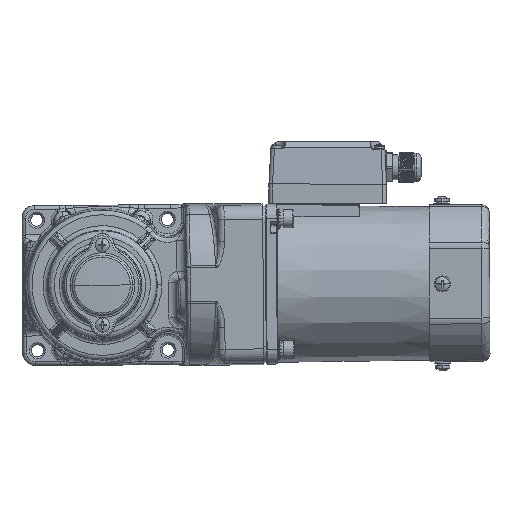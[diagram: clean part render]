
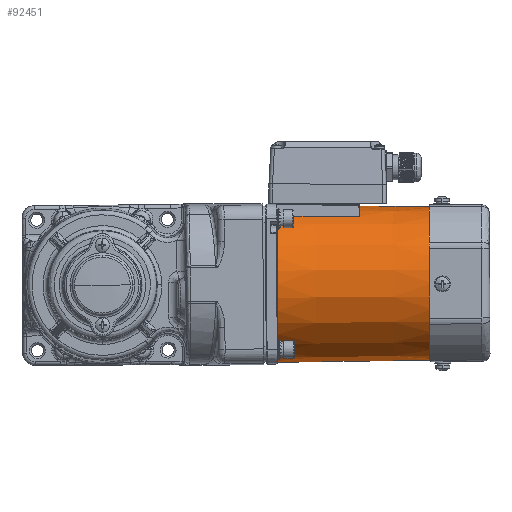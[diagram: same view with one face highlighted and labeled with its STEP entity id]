
A CAD part, left-side view. The second image highlights one B-rep face of the part: STEP entity #92451.
In plain terms, the highlighted conical face has half-angle 0.5 degrees and reference radius 44 mm.
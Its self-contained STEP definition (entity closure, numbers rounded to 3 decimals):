
#690 = CARTESIAN_POINT ( 'NONE',  ( 41.159, -23.171, 154.593 ) ) ;
#1656 = ORIENTED_EDGE ( 'NONE', *, *, #15136, .F. ) ;
#6277 = DIRECTION ( 'NONE',  ( 1., 0., 0. ) ) ;
#8604 = VERTEX_POINT ( 'NONE', #71361 ) ;
#9328 = CARTESIAN_POINT ( 'NONE',  ( 41.348, -23.657, 201. ) ) ;
#9583 = CARTESIAN_POINT ( 'NONE',  ( 41.132, -23.221, 154.663 ) ) ;
#10664 = VERTEX_POINT ( 'NONE', #15161 ) ;
#11332 = CARTESIAN_POINT ( 'NONE',  ( 41.147, -23.193, 154.619 ) ) ;
#11919 = CARTESIAN_POINT ( 'NONE',  ( 41.23, -23.046, 154.512 ) ) ;
#13790 = CARTESIAN_POINT ( 'NONE',  ( 46.483, -1.657, 114. ) ) ;
#15136 = EDGE_CURVE ( 'NONE', #100451, #10664, #54859, .T. ) ;
#15161 = CARTESIAN_POINT ( 'NONE',  ( -40.757, -1.657, 201. ) ) ;
#15562 = EDGE_CURVE ( 'NONE', #55623, #22641, #80423, .T. ) ;
#18254 = CARTESIAN_POINT ( 'NONE',  ( 41.27, -23.522, 185.599 ) ) ;
#19706 = AXIS2_PLACEMENT_3D ( 'NONE', #82987, #74052, #74660 ) ;
#20336 = EDGE_CURVE ( 'NONE', #38006, #8604, #40725, .T. ) ;
#21583 = AXIS2_PLACEMENT_3D ( 'NONE', #62217, #53308, #89545 ) ;
#22641 = VERTEX_POINT ( 'NONE', #63105 ) ;
#23475 = VERTEX_POINT ( 'NONE', #63993 ) ;
#27161 = CARTESIAN_POINT ( 'NONE',  ( 41.114, -23.254, 154.797 ) ) ;
#28643 = EDGE_CURVE ( 'NONE', #23475, #10664, #99091, .T. ) ;
#29215 = CIRCLE ( 'NONE', #19706, 43.241 ) ;
#29762 = CARTESIAN_POINT ( 'NONE',  ( 41.166, -23.159, 154.581 ) ) ;
#32483 = DIRECTION ( 'NONE',  ( 1., 0., 0. ) ) ;
#38006 = VERTEX_POINT ( 'NONE', #13790 ) ;
#38687 = CARTESIAN_POINT ( 'NONE',  ( 41.165, -23.161, 154.584 ) ) ;
#40725 = LINE ( 'NONE', #102500, #95738 ) ;
#44347 = EDGE_CURVE ( 'NONE', #8604, #22641, #113410, .T. ) ;
#45835 = CARTESIAN_POINT ( 'NONE',  ( 41.192, -23.114, 154.544 ) ) ;
#47584 = CARTESIAN_POINT ( 'NONE',  ( 41.137, -23.211, 154.645 ) ) ;
#52824 = ORIENTED_EDGE ( 'NONE', *, *, #95856, .T. ) ;
#53308 = DIRECTION ( 'NONE',  ( 0., 0., 1. ) ) ;
#54729 = CARTESIAN_POINT ( 'NONE',  ( 41.152, -23.184, 154.607 ) ) ;
#54859 = LINE ( 'NONE', #81025, #80081 ) ;
#55623 = VERTEX_POINT ( 'NONE', #112386 ) ;
#56284 = CARTESIAN_POINT ( 'NONE',  ( 3.243, -1.657, 201. ) ) ;
#56868 = DIRECTION ( 'NONE',  ( 0., 0., -1. ) ) ;
#58636 = EDGE_LOOP ( 'NONE', ( #1656, #79369, #96633, #105381, #76437, #52824, #91027 ) ) ;
#61953 = B_SPLINE_CURVE_WITH_KNOTS ( 'NONE', 3,
 ( #27161, #82381, #18254, #9328 ),
 .UNSPECIFIED., .F., .F.,
 ( 4, 4 ),
 ( 0., 0.046 ),
 .UNSPECIFIED. ) ;
#62217 = CARTESIAN_POINT ( 'NONE',  ( 3.243, -1.657, 201. ) ) ;
#63105 = CARTESIAN_POINT ( 'NONE',  ( 41.281, -22.954, 154.5 ) ) ;
#63647 = CARTESIAN_POINT ( 'NONE',  ( 41.114, -23.253, 154.759 ) ) ;
#63993 = CARTESIAN_POINT ( 'NONE',  ( 41.348, -23.657, 201. ) ) ;
#64811 = CARTESIAN_POINT ( 'NONE',  ( 41.177, -23.139, 154.563 ) ) ;
#68413 = EDGE_CURVE ( 'NONE', #100451, #38006, #29215, .T. ) ;
#71361 = CARTESIAN_POINT ( 'NONE',  ( 46.837, -1.657, 154.5 ) ) ;
#72796 = CONICAL_SURFACE ( 'NONE', #21583, 44., 0.009 ) ;
#74052 = DIRECTION ( 'NONE',  ( 0., 0., 1. ) ) ;
#74660 = DIRECTION ( 'NONE',  ( 1., 0., 0. ) ) ;
#75207 = DIRECTION ( 'NONE',  ( 0.009, 0., 1. ) ) ;
#76437 = ORIENTED_EDGE ( 'NONE', *, *, #15562, .F. ) ;
#78751 = CARTESIAN_POINT ( 'NONE',  ( 3.243, -1.657, 154.5 ) ) ;
#79369 = ORIENTED_EDGE ( 'NONE', *, *, #68413, .T. ) ;
#80081 = VECTOR ( 'NONE', #89338, 1000. ) ;
#80423 = B_SPLINE_CURVE_WITH_KNOTS ( 'NONE', 3,
 ( #92144, #63647, #90973, #9583, #47584, #11332, #54729, #690, #111128, #38687, #29762, #64811, #45835, #11919, #100461, #91564 ),
 .UNSPECIFIED., .F., .F.,
 ( 4, 2, 2, 1, 1, 2, 2, 2, 4 ),
 ( 0., 0.25, 0.375, 0.438, 0.469, 0.484, 0.5, 0.75, 1. ),
 .UNSPECIFIED. ) ;
#81025 = CARTESIAN_POINT ( 'NONE',  ( -40.757, -1.657, 201. ) ) ;
#82381 = CARTESIAN_POINT ( 'NONE',  ( 41.192, -23.388, 170.198 ) ) ;
#82987 = CARTESIAN_POINT ( 'NONE',  ( 3.243, -1.657, 114. ) ) ;
#89338 = DIRECTION ( 'NONE',  ( -0.009, 0., 1. ) ) ;
#89545 = DIRECTION ( 'NONE',  ( 1., 0., 0. ) ) ;
#89788 = AXIS2_PLACEMENT_3D ( 'NONE', #78751, #95413, #6277 ) ;
#90973 = CARTESIAN_POINT ( 'NONE',  ( 41.118, -23.246, 154.72 ) ) ;
#91027 = ORIENTED_EDGE ( 'NONE', *, *, #28643, .T. ) ;
#91564 = CARTESIAN_POINT ( 'NONE',  ( 41.281, -22.954, 154.5 ) ) ;
#92144 = CARTESIAN_POINT ( 'NONE',  ( 41.114, -23.254, 154.797 ) ) ;
#92451 = ADVANCED_FACE ( 'NONE', ( #106782 ), #72796, .T. ) ;
#95413 = DIRECTION ( 'NONE',  ( 0., 0., -1. ) ) ;
#95738 = VECTOR ( 'NONE', #75207, 1000. ) ;
#95856 = EDGE_CURVE ( 'NONE', #55623, #23475, #61953, .T. ) ;
#96633 = ORIENTED_EDGE ( 'NONE', *, *, #20336, .T. ) ;
#99091 = CIRCLE ( 'NONE', #110541, 44. ) ;
#100451 = VERTEX_POINT ( 'NONE', #116224 ) ;
#100461 = CARTESIAN_POINT ( 'NONE',  ( 41.253, -23.003, 154.5 ) ) ;
#102500 = CARTESIAN_POINT ( 'NONE',  ( 47.243, -1.657, 201. ) ) ;
#105381 = ORIENTED_EDGE ( 'NONE', *, *, #44347, .T. ) ;
#106782 = FACE_OUTER_BOUND ( 'NONE', #58636, .T. ) ;
#110541 = AXIS2_PLACEMENT_3D ( 'NONE', #56284, #56868, #32483 ) ;
#111128 = CARTESIAN_POINT ( 'NONE',  ( 41.162, -23.165, 154.587 ) ) ;
#112386 = CARTESIAN_POINT ( 'NONE',  ( 41.114, -23.254, 154.797 ) ) ;
#113410 = CIRCLE ( 'NONE', #89788, 43.594 ) ;
#116224 = CARTESIAN_POINT ( 'NONE',  ( -39.998, -1.657, 114. ) ) ;
